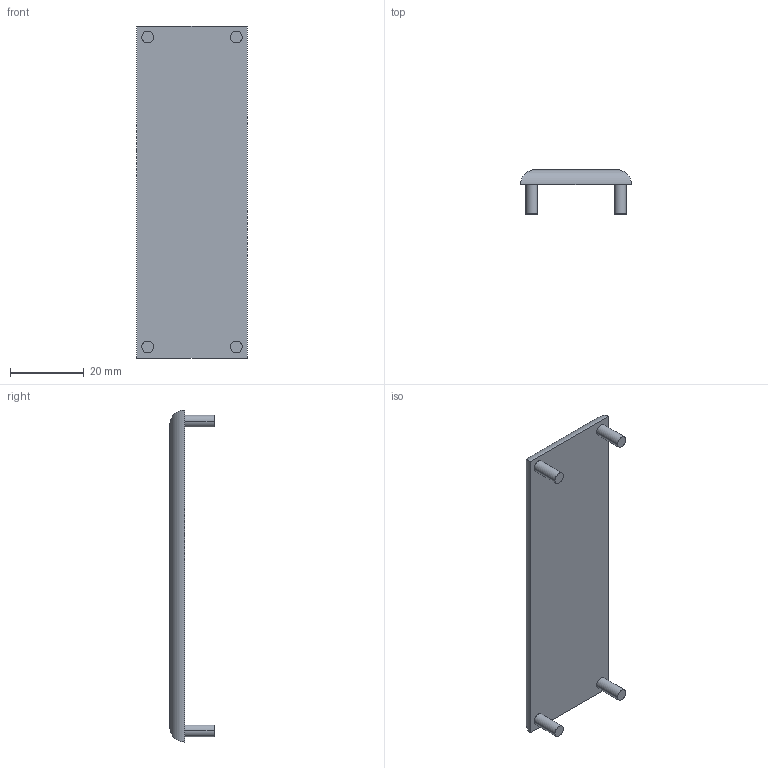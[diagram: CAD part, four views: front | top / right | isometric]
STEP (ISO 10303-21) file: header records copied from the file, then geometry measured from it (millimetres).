
FILE_DESCRIPTION((''),'2;1');
FILE_NAME('TAC309008','2002-12-27T',('Lipro doo'),('Lipro d.o.o.'),'PRO/ENGINEER BY PARAMETRIC TECHNOLOGY CORPORATION, 2001150','PRO/ENGINEER BY PARAMETRIC TECHNOLOGY CORPORATION, 2001150','');
FILE_SCHEMA(('CONFIG_CONTROL_DESIGN'));
Length unit declared in the file: millimetre
Products named in the file (1): TAC309008
Bounding box: 30 x 12 x 90 mm (x, y, z)
Volume: 10257.8 mm3; surface area: 6260.6 mm2
Topology: 1 solids, 1 shells, 18 faces, 36 edges, 24 vertices
Faces by surface type: cylinder 12, plane 6
Entity records: 554 total; most frequent: CARTESIAN_POINT 126, DIRECTION 84, ORIENTED_EDGE 72, EDGE_CURVE 36, AXIS2_PLACEMENT_3D 34, VERTEX_POINT 24, EDGE_LOOP 22, FACE_OUTER_BOUND 18
